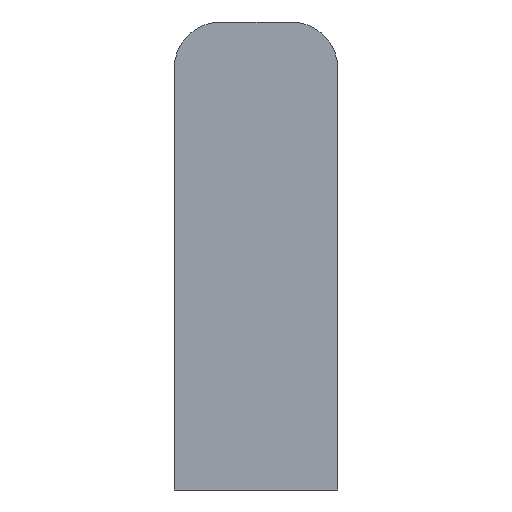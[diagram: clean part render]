
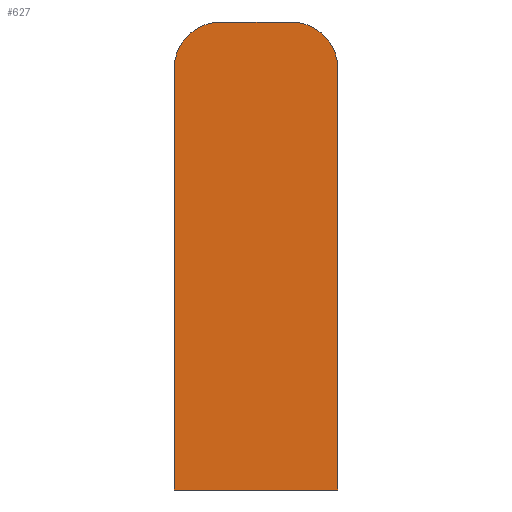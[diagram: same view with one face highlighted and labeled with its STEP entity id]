
A CAD part, front view. The second image highlights one B-rep face of the part: STEP entity #627.
In plain terms, the highlighted planar face has unit normal (0, -1, 0).
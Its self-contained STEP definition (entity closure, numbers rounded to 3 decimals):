
#7 = VECTOR ( 'NONE', #288, 1000. ) ;
#8 = CIRCLE ( 'NONE', #579, 3. ) ;
#12 = LINE ( 'NONE', #329, #158 ) ;
#20 = VECTOR ( 'NONE', #324, 1000. ) ;
#21 = LINE ( 'NONE', #323, #20 ) ;
#23 = LINE ( 'NONE', #285, #7 ) ;
#50 = EDGE_LOOP ( 'NONE', ( #190, #191, #147, #118, #124, #125 ) ) ;
#118 = ORIENTED_EDGE ( 'NONE', *, *, #513, .T. ) ;
#124 = ORIENTED_EDGE ( 'NONE', *, *, #549, .T. ) ;
#125 = ORIENTED_EDGE ( 'NONE', *, *, #589, .T. ) ;
#147 = ORIENTED_EDGE ( 'NONE', *, *, #515, .T. ) ;
#158 = VECTOR ( 'NONE', #332, 1000. ) ;
#190 = ORIENTED_EDGE ( 'NONE', *, *, #553, .T. ) ;
#191 = ORIENTED_EDGE ( 'NONE', *, *, #595, .T. ) ;
#202 = VERTEX_POINT ( 'NONE', #238 ) ;
#207 = VERTEX_POINT ( 'NONE', #240 ) ;
#213 = VERTEX_POINT ( 'NONE', #245 ) ;
#214 = VERTEX_POINT ( 'NONE', #246 ) ;
#222 = VERTEX_POINT ( 'NONE', #254 ) ;
#225 = VERTEX_POINT ( 'NONE', #257 ) ;
#238 = CARTESIAN_POINT ( 'NONE',  ( -2.25, 0., 13.5 ) ) ;
#240 = CARTESIAN_POINT ( 'NONE',  ( 2.25, 0., 13.5 ) ) ;
#245 = CARTESIAN_POINT ( 'NONE',  ( 5.25, 0., 10.5 ) ) ;
#246 = CARTESIAN_POINT ( 'NONE',  ( -5.25, 0., -16.5 ) ) ;
#254 = CARTESIAN_POINT ( 'NONE',  ( -5.25, 0., 10.5 ) ) ;
#257 = CARTESIAN_POINT ( 'NONE',  ( 5.25, 0., -16.5 ) ) ;
#274 = CARTESIAN_POINT ( 'NONE',  ( -2.25, 0., 10.5 ) ) ;
#283 = DIRECTION ( 'NONE',  ( 0., -1., 0. ) ) ;
#284 = DIRECTION ( 'NONE',  ( -1., 0., 0. ) ) ;
#285 = CARTESIAN_POINT ( 'NONE',  ( 2.25, 0., 13.5 ) ) ;
#288 = DIRECTION ( 'NONE',  ( -1., 0., 0. ) ) ;
#323 = CARTESIAN_POINT ( 'NONE',  ( -5.25, 0., -16.5 ) ) ;
#324 = DIRECTION ( 'NONE',  ( 0., 0., -1. ) ) ;
#329 = CARTESIAN_POINT ( 'NONE',  ( 5.25, 0., -16.5 ) ) ;
#332 = DIRECTION ( 'NONE',  ( 0., 0., 1. ) ) ;
#372 = CARTESIAN_POINT ( 'NONE',  ( 5.25, 0., -16.5 ) ) ;
#373 = DIRECTION ( 'NONE',  ( 1., 0., 0. ) ) ;
#377 = CARTESIAN_POINT ( 'NONE',  ( 2.25, 0., 10.5 ) ) ;
#388 = DIRECTION ( 'NONE',  ( 0., -1., 0. ) ) ;
#389 = DIRECTION ( 'NONE',  ( -1., 0., 0. ) ) ;
#429 = PLANE ( 'NONE',  #583 ) ;
#440 = CARTESIAN_POINT ( 'NONE',  ( 0., 0., -1.5 ) ) ;
#446 = DIRECTION ( 'NONE',  ( 0., 1., 0. ) ) ;
#447 = DIRECTION ( 'NONE',  ( -1., 0., 0. ) ) ;
#513 = EDGE_CURVE ( 'NONE', #202, #222, #8, .T. ) ;
#515 = EDGE_CURVE ( 'NONE', #207, #202, #23, .T. ) ;
#519 = AXIS2_PLACEMENT_3D ( 'NONE', #377, #388, #389 ) ;
#549 = EDGE_CURVE ( 'NONE', #222, #214, #21, .T. ) ;
#553 = EDGE_CURVE ( 'NONE', #225, #213, #12, .T. ) ;
#579 = AXIS2_PLACEMENT_3D ( 'NONE', #274, #283, #284 ) ;
#583 = AXIS2_PLACEMENT_3D ( 'NONE', #440, #446, #447 ) ;
#589 = EDGE_CURVE ( 'NONE', #214, #225, #652, .T. ) ;
#595 = EDGE_CURVE ( 'NONE', #213, #207, #669, .T. ) ;
#627 = ADVANCED_FACE ( 'NONE', ( #687 ), #429, .F. ) ;
#639 = VECTOR ( 'NONE', #373, 1000. ) ;
#652 = LINE ( 'NONE', #372, #639 ) ;
#669 = CIRCLE ( 'NONE', #519, 3. ) ;
#687 = FACE_OUTER_BOUND ( 'NONE', #50, .T. ) ;
